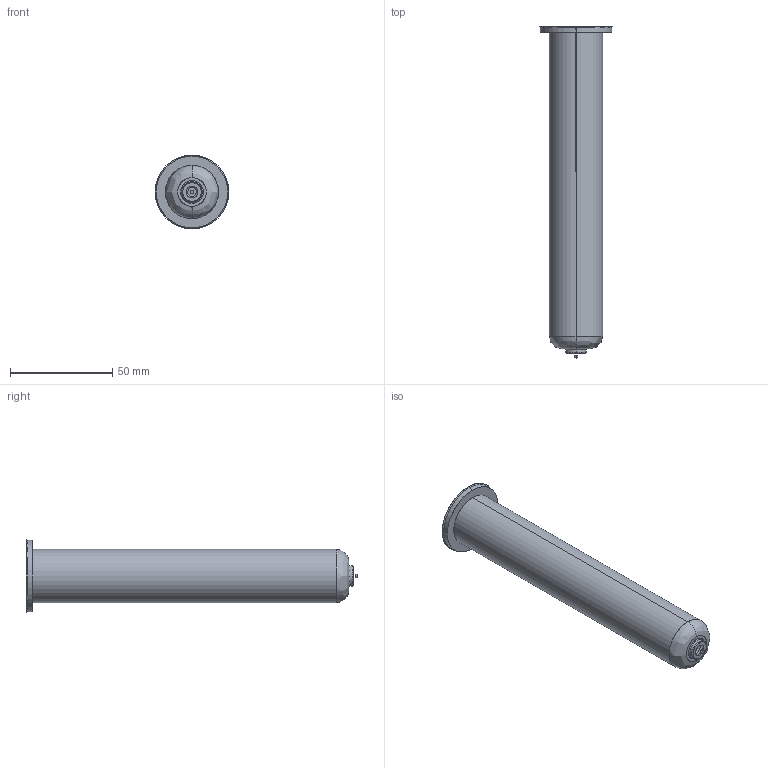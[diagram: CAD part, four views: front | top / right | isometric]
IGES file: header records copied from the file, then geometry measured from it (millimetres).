
Start section: SolidWorks IGES file using analytic representation for surfaces
Global section: file name: C:\Documents and Settings\ws-20\Desktop\TEM\Sede UGER3554-M-A C-159 L-189 Ød-1.5.IGS; native system: SolidWorks 2012; preprocessor: SolidWorks 2012; author: ws-20; date: 120410.083603; units: millimetre
Bounding box: 36 x 162.4 x 36 mm (x, y, z)
Surface area: 14842.2 mm2 (no closed solid volume)
Topology: 0 solids, 0 shells, 23 faces, 380 edges, 380 vertices
Faces by surface type: revolution 14, bspline 9
